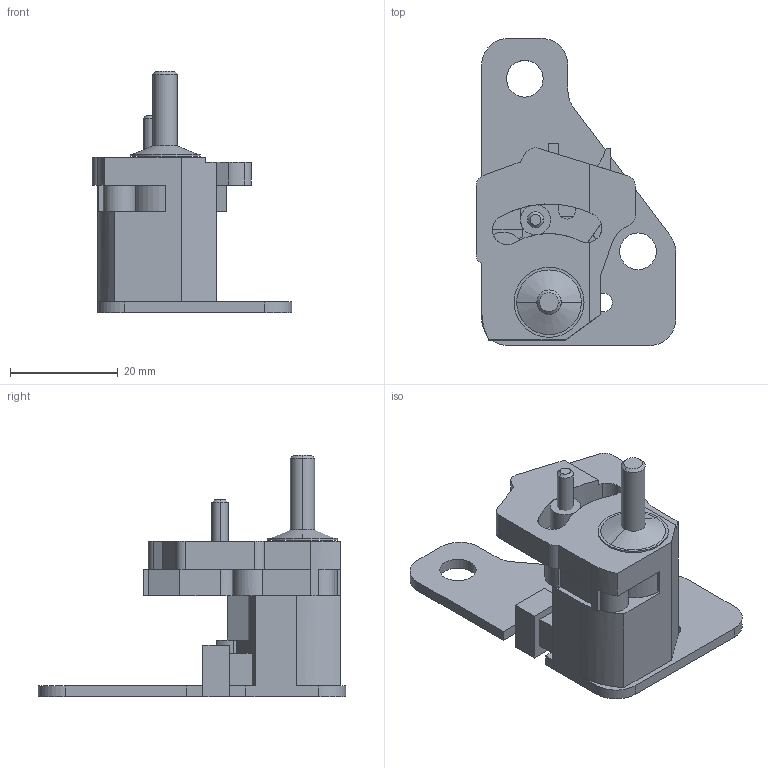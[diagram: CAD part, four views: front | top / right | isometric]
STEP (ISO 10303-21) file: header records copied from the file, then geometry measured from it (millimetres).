
FILE_DESCRIPTION (( 'STEP AP214' ), '1' );
FILE_NAME ('XP_Tipmatic_Plus_rechts.step', '2009-11-24T07:30:17', ( 'Grass' ), ( 'Grass GmbH' ), 'SwSTEP 2.0', 'SolidWorks 2009', '' );
FILE_SCHEMA (( 'AUTOMOTIVE_DESIGN' ));
Length unit declared in the file: millimetre
Products named in the file (1): XP_Tipmatic_Plus_rechts
Bounding box: 37 x 57 x 44.75 mm (x, y, z)
Volume: 16249.3 mm3; surface area: 8519.5 mm2
Topology: 3 solids, 3 shells, 162 faces, 443 edges, 286 vertices
Faces by surface type: plane 97, cylinder 59, cone 6
Entity records: 5213 total; most frequent: DIRECTION 923, CARTESIAN_POINT 892, ORIENTED_EDGE 886, EDGE_CURVE 443, AXIS2_PLACEMENT_3D 317, LINE 289, VECTOR 289, VERTEX_POINT 286
